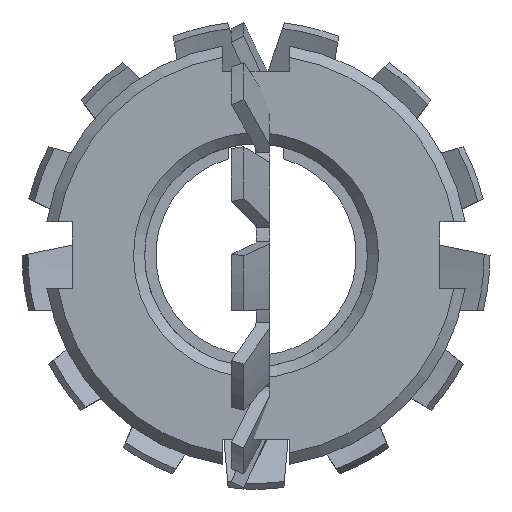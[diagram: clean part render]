
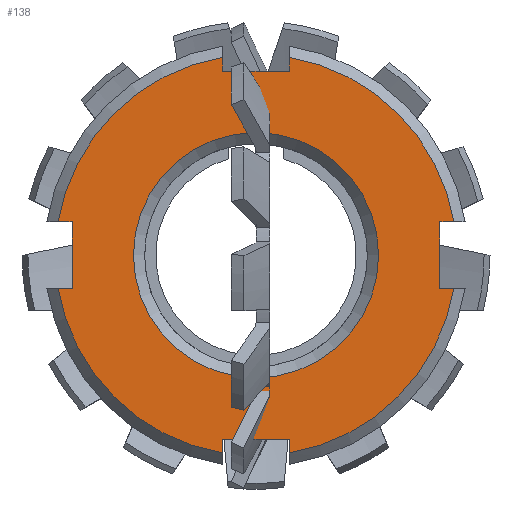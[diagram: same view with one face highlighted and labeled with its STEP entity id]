
A CAD part, front view. The second image highlights one B-rep face of the part: STEP entity #138.
In plain terms, the highlighted planar face has unit normal (0, -1, 0).
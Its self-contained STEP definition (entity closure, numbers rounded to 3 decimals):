
#138 = ADVANCED_FACE( '', ( #268, #269 ), #270, .F. );
#268 = FACE_BOUND( '', #398, .T. );
#269 = FACE_OUTER_BOUND( '', #399, .T. );
#270 = PLANE( '', #400 );
#398 = EDGE_LOOP( '', ( #776 ) );
#399 = EDGE_LOOP( '', ( #777, #778, #779, #780, #781, #782, #783, #784, #785, #786, #787, #788, #789, #790, #791, #792 ) );
#400 = AXIS2_PLACEMENT_3D( '', #793, #794, #795 );
#776 = ORIENTED_EDGE( '', *, *, #1096, .F. );
#777 = ORIENTED_EDGE( '', *, *, #1081, .F. );
#778 = ORIENTED_EDGE( '', *, *, #1113, .T. );
#779 = ORIENTED_EDGE( '', *, *, #1048, .T. );
#780 = ORIENTED_EDGE( '', *, *, #1010, .T. );
#781 = ORIENTED_EDGE( '', *, *, #1125, .F. );
#782 = ORIENTED_EDGE( '', *, *, #1121, .T. );
#783 = ORIENTED_EDGE( '', *, *, #1092, .T. );
#784 = ORIENTED_EDGE( '', *, *, #1064, .T. );
#785 = ORIENTED_EDGE( '', *, *, #1119, .F. );
#786 = ORIENTED_EDGE( '', *, *, #1013, .T. );
#787 = ORIENTED_EDGE( '', *, *, #1032, .T. );
#788 = ORIENTED_EDGE( '', *, *, #1107, .T. );
#789 = ORIENTED_EDGE( '', *, *, #1027, .F. );
#790 = ORIENTED_EDGE( '', *, *, #1088, .T. );
#791 = ORIENTED_EDGE( '', *, *, #1126, .T. );
#792 = ORIENTED_EDGE( '', *, *, #1127, .T. );
#793 = CARTESIAN_POINT( '', ( 0., -9.75, 19. ) );
#794 = DIRECTION( '', ( 0., 1., 0. ) );
#795 = DIRECTION( '', ( 0., 0., 1. ) );
#1010 = EDGE_CURVE( '', #1306, #1310, #1312, .F. );
#1013 = EDGE_CURVE( '', #1317, #1315, #1318, .T. );
#1027 = EDGE_CURVE( '', #1341, #1343, #1344, .T. );
#1032 = EDGE_CURVE( '', #1315, #1350, #1352, .T. );
#1048 = EDGE_CURVE( '', #1378, #1306, #1379, .T. );
#1064 = EDGE_CURVE( '', #1399, #1403, #1405, .F. );
#1081 = EDGE_CURVE( '', #1431, #1433, #1434, .T. );
#1088 = EDGE_CURVE( '', #1341, #1440, #1442, .T. );
#1092 = EDGE_CURVE( '', #1446, #1399, #1447, .T. );
#1096 = EDGE_CURVE( '', #1451, #1451, #1452, .T. );
#1107 = EDGE_CURVE( '', #1350, #1343, #1464, .F. );
#1113 = EDGE_CURVE( '', #1431, #1378, #1471, .T. );
#1119 = EDGE_CURVE( '', #1317, #1403, #1477, .T. );
#1121 = EDGE_CURVE( '', #1479, #1446, #1480, .T. );
#1125 = EDGE_CURVE( '', #1479, #1310, #1484, .T. );
#1126 = EDGE_CURVE( '', #1440, #1485, #1486, .T. );
#1127 = EDGE_CURVE( '', #1485, #1433, #1487, .F. );
#1306 = VERTEX_POINT( '', #2240 );
#1310 = VERTEX_POINT( '', #2247 );
#1312 = CIRCLE( '', #2252, 18. );
#1315 = VERTEX_POINT( '', #2255 );
#1317 = VERTEX_POINT( '', #2258 );
#1318 = LINE( '', #2259, #2260 );
#1341 = VERTEX_POINT( '', #2306 );
#1343 = VERTEX_POINT( '', #2309 );
#1344 = LINE( '', #2310, #2311 );
#1350 = VERTEX_POINT( '', #2321 );
#1352 = LINE( '', #2326, #2327 );
#1378 = VERTEX_POINT( '', #2371 );
#1379 = LINE( '', #2372, #2373 );
#1399 = VERTEX_POINT( '', #2399 );
#1403 = VERTEX_POINT( '', #2406 );
#1405 = CIRCLE( '', #2411, 18. );
#1431 = VERTEX_POINT( '', #2474 );
#1433 = VERTEX_POINT( '', #2477 );
#1434 = LINE( '', #2478, #2479 );
#1440 = VERTEX_POINT( '', #2490 );
#1442 = LINE( '', #2493, #2494 );
#1446 = VERTEX_POINT( '', #2498 );
#1447 = LINE( '', #2499, #2500 );
#1451 = VERTEX_POINT( '', #2506 );
#1452 = CIRCLE( '', #2507, 11. );
#1464 = CIRCLE( '', #2522, 18. );
#1471 = LINE( '', #2530, #2531 );
#1477 = LINE( '', #2537, #2538 );
#1479 = VERTEX_POINT( '', #2540 );
#1480 = LINE( '', #2541, #2542 );
#1484 = LINE( '', #2547, #2548 );
#1485 = VERTEX_POINT( '', #2549 );
#1486 = LINE( '', #2550, #2551 );
#1487 = CIRCLE( '', #2552, 18. );
#2240 = CARTESIAN_POINT( '', ( -17.748, -9.75, -3. ) );
#2247 = CARTESIAN_POINT( '', ( -3., -9.75, -17.748 ) );
#2252 = AXIS2_PLACEMENT_3D( '', #2811, #2812, #2813 );
#2255 = CARTESIAN_POINT( '', ( 16.5, -9.75, 3. ) );
#2258 = CARTESIAN_POINT( '', ( 16.5, -9.75, -3. ) );
#2259 = CARTESIAN_POINT( '', ( 16.5, -9.75, -3. ) );
#2260 = VECTOR( '', #2815, 1000. );
#2306 = CARTESIAN_POINT( '', ( 3., -9.75, 16.5 ) );
#2309 = CARTESIAN_POINT( '', ( 3., -9.75, 17.748 ) );
#2310 = CARTESIAN_POINT( '', ( 3., -9.75, 19. ) );
#2311 = VECTOR( '', #2824, 1000. );
#2321 = CARTESIAN_POINT( '', ( 17.748, -9.75, 3. ) );
#2326 = CARTESIAN_POINT( '', ( 19., -9.75, 3. ) );
#2327 = VECTOR( '', #2826, 1000. );
#2371 = CARTESIAN_POINT( '', ( -16.5, -9.75, -3. ) );
#2372 = CARTESIAN_POINT( '', ( -19., -9.75, -3. ) );
#2373 = VECTOR( '', #2839, 1000. );
#2399 = CARTESIAN_POINT( '', ( 3., -9.75, -17.748 ) );
#2406 = CARTESIAN_POINT( '', ( 17.748, -9.75, -3. ) );
#2411 = AXIS2_PLACEMENT_3D( '', #2861, #2862, #2863 );
#2474 = CARTESIAN_POINT( '', ( -16.5, -9.75, 3. ) );
#2477 = CARTESIAN_POINT( '', ( -17.748, -9.75, 3. ) );
#2478 = CARTESIAN_POINT( '', ( -19., -9.75, 3. ) );
#2479 = VECTOR( '', #2878, 1000. );
#2490 = CARTESIAN_POINT( '', ( -3., -9.75, 16.5 ) );
#2493 = CARTESIAN_POINT( '', ( 3., -9.75, 16.5 ) );
#2494 = VECTOR( '', #2882, 1000. );
#2498 = CARTESIAN_POINT( '', ( 3., -9.75, -16.5 ) );
#2499 = CARTESIAN_POINT( '', ( 3., -9.75, -19. ) );
#2500 = VECTOR( '', #2886, 1000. );
#2506 = CARTESIAN_POINT( '', ( 0., -9.75, -11. ) );
#2507 = AXIS2_PLACEMENT_3D( '', #2889, #2890, #2891 );
#2522 = AXIS2_PLACEMENT_3D( '', #2901, #2902, #2903 );
#2530 = CARTESIAN_POINT( '', ( -16.5, -9.75, 3. ) );
#2531 = VECTOR( '', #2911, 1000. );
#2537 = CARTESIAN_POINT( '', ( 19., -9.75, -3. ) );
#2538 = VECTOR( '', #2918, 1000. );
#2540 = CARTESIAN_POINT( '', ( -3., -9.75, -16.5 ) );
#2541 = CARTESIAN_POINT( '', ( -3., -9.75, -16.5 ) );
#2542 = VECTOR( '', #2919, 1000. );
#2547 = CARTESIAN_POINT( '', ( -3., -9.75, -19. ) );
#2548 = VECTOR( '', #2921, 1000. );
#2549 = CARTESIAN_POINT( '', ( -3., -9.75, 17.748 ) );
#2550 = CARTESIAN_POINT( '', ( -3., -9.75, 19. ) );
#2551 = VECTOR( '', #2922, 1000. );
#2552 = AXIS2_PLACEMENT_3D( '', #2923, #2924, #2925 );
#2811 = CARTESIAN_POINT( '', ( 0., -9.75, 0. ) );
#2812 = DIRECTION( '', ( 0., 1., 0. ) );
#2813 = DIRECTION( '', ( 0., 0., 1. ) );
#2815 = DIRECTION( '', ( 0., 0., 1. ) );
#2824 = DIRECTION( '', ( 0., 0., 1. ) );
#2826 = DIRECTION( '', ( 1., 0., 0. ) );
#2839 = DIRECTION( '', ( -1., 0., 0. ) );
#2861 = CARTESIAN_POINT( '', ( 0., -9.75, 0. ) );
#2862 = DIRECTION( '', ( 0., 1., 0. ) );
#2863 = DIRECTION( '', ( 0., 0., 1. ) );
#2878 = DIRECTION( '', ( -1., 0., 0. ) );
#2882 = DIRECTION( '', ( -1., 0., 0. ) );
#2886 = DIRECTION( '', ( 0., 0., -1. ) );
#2889 = CARTESIAN_POINT( '', ( 0., -9.75, 0. ) );
#2890 = DIRECTION( '', ( 0., -1., 0. ) );
#2891 = DIRECTION( '', ( 0., 0., -1. ) );
#2901 = CARTESIAN_POINT( '', ( 0., -9.75, 0. ) );
#2902 = DIRECTION( '', ( 0., 1., 0. ) );
#2903 = DIRECTION( '', ( 0., 0., 1. ) );
#2911 = DIRECTION( '', ( 0., 0., -1. ) );
#2918 = DIRECTION( '', ( 1., 0., 0. ) );
#2919 = DIRECTION( '', ( 1., 0., 0. ) );
#2921 = DIRECTION( '', ( 0., 0., -1. ) );
#2922 = DIRECTION( '', ( 0., 0., 1. ) );
#2923 = CARTESIAN_POINT( '', ( 0., -9.75, 0. ) );
#2924 = DIRECTION( '', ( 0., 1., 0. ) );
#2925 = DIRECTION( '', ( 0., 0., 1. ) );
